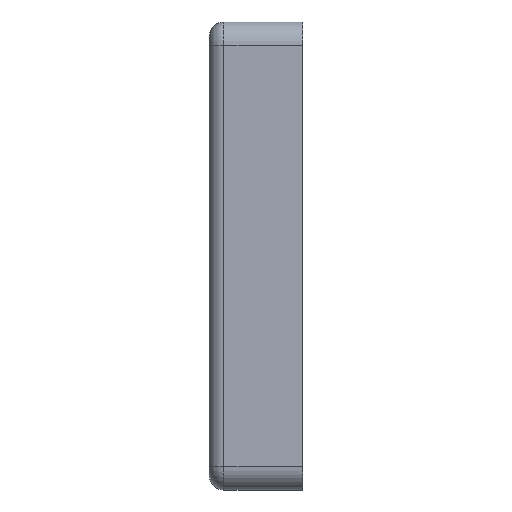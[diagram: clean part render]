
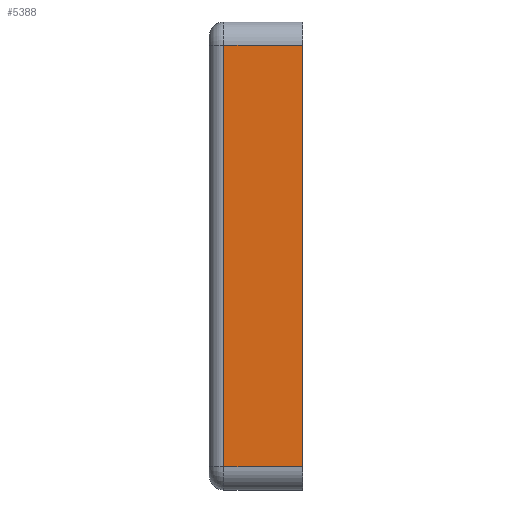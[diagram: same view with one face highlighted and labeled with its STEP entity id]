
A CAD part, left-side view. The second image highlights one B-rep face of the part: STEP entity #5388.
In plain terms, the highlighted planar face has unit normal (-1, 0, 0).
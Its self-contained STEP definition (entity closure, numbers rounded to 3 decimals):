
#52 = PLANE ( 'NONE',  #5105 ) ;
#543 = FACE_OUTER_BOUND ( 'NONE', #4587, .T. ) ;
#670 = CARTESIAN_POINT ( 'NONE',  ( 0., 13.5, -76. ) ) ;
#783 = EDGE_CURVE ( 'NONE', #3141, #1286, #890, .T. ) ;
#886 = ORIENTED_EDGE ( 'NONE', *, *, #3643, .T. ) ;
#890 = LINE ( 'NONE', #4203, #2552 ) ;
#1244 = LINE ( 'NONE', #5452, #4513 ) ;
#1260 = CARTESIAN_POINT ( 'NONE',  ( 0., 0., -76. ) ) ;
#1286 = VERTEX_POINT ( 'NONE', #5348 ) ;
#1390 = DIRECTION ( 'NONE',  ( 0., 0., -1. ) ) ;
#1984 = LINE ( 'NONE', #2507, #3897 ) ;
#2013 = CARTESIAN_POINT ( 'NONE',  ( 0., 0., -4. ) ) ;
#2127 = EDGE_CURVE ( 'NONE', #5027, #3141, #1984, .T. ) ;
#2423 = ORIENTED_EDGE ( 'NONE', *, *, #783, .T. ) ;
#2482 = CARTESIAN_POINT ( 'NONE',  ( 0., 16., 0. ) ) ;
#2507 = CARTESIAN_POINT ( 'NONE',  ( 0., 0., 0. ) ) ;
#2552 = VECTOR ( 'NONE', #5534, 1000. ) ;
#2903 = DIRECTION ( 'NONE',  ( 0., 0., -1. ) ) ;
#3141 = VERTEX_POINT ( 'NONE', #2013 ) ;
#3275 = LINE ( 'NONE', #3702, #5804 ) ;
#3643 = EDGE_CURVE ( 'NONE', #4917, #5027, #1244, .T. ) ;
#3702 = CARTESIAN_POINT ( 'NONE',  ( 0., 13.5, 0. ) ) ;
#3897 = VECTOR ( 'NONE', #5797, 1000. ) ;
#4203 = CARTESIAN_POINT ( 'NONE',  ( 0., 16., -4. ) ) ;
#4291 = ORIENTED_EDGE ( 'NONE', *, *, #2127, .T. ) ;
#4513 = VECTOR ( 'NONE', #4853, 1000. ) ;
#4587 = EDGE_LOOP ( 'NONE', ( #5005, #886, #4291, #2423 ) ) ;
#4687 = DIRECTION ( 'NONE',  ( 1., 0., 0. ) ) ;
#4853 = DIRECTION ( 'NONE',  ( 0., -1., 0. ) ) ;
#4917 = VERTEX_POINT ( 'NONE', #670 ) ;
#5005 = ORIENTED_EDGE ( 'NONE', *, *, #5841, .T. ) ;
#5027 = VERTEX_POINT ( 'NONE', #1260 ) ;
#5105 = AXIS2_PLACEMENT_3D ( 'NONE', #2482, #4687, #2903 ) ;
#5348 = CARTESIAN_POINT ( 'NONE',  ( 0., 13.5, -4. ) ) ;
#5388 = ADVANCED_FACE ( 'NONE', ( #543 ), #52, .F. ) ;
#5452 = CARTESIAN_POINT ( 'NONE',  ( 0., 16., -76. ) ) ;
#5534 = DIRECTION ( 'NONE',  ( 0., 1., 0. ) ) ;
#5797 = DIRECTION ( 'NONE',  ( 0., 0., 1. ) ) ;
#5804 = VECTOR ( 'NONE', #1390, 1000. ) ;
#5841 = EDGE_CURVE ( 'NONE', #1286, #4917, #3275, .T. ) ;
